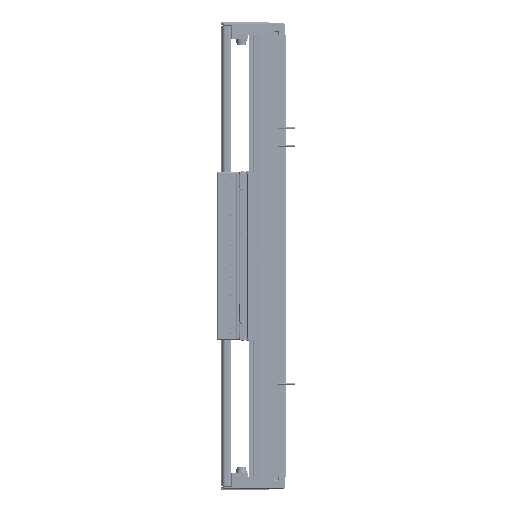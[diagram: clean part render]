
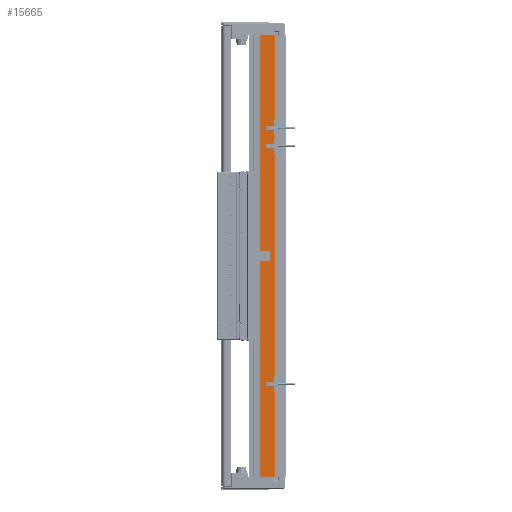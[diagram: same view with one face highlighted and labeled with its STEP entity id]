
A CAD part, left-side view. The second image highlights one B-rep face of the part: STEP entity #15665.
In plain terms, the highlighted planar face has unit normal (-1, 0, 0).
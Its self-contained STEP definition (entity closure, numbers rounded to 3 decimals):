
#129 = CARTESIAN_POINT ( 'NONE',  ( -97.5, 36.95, 330. ) ) ;
#3507 = VERTEX_POINT ( 'NONE', #59756 ) ;
#4590 = DIRECTION ( 'NONE',  ( 0., -1., 0. ) ) ;
#4723 = VECTOR ( 'NONE', #95587, 1000. ) ;
#7151 = CARTESIAN_POINT ( 'NONE',  ( -97.5, 14.45, -330. ) ) ;
#11218 = ORIENTED_EDGE ( 'NONE', *, *, #65487, .F. ) ;
#15665 = ADVANCED_FACE ( 'NONE', ( #110944 ), #17832, .F. ) ;
#17832 = PLANE ( 'NONE',  #43734 ) ;
#17849 = EDGE_CURVE ( 'NONE', #51162, #18209, #80760, .T. ) ;
#18209 = VERTEX_POINT ( 'NONE', #7151 ) ;
#28831 = CARTESIAN_POINT ( 'NONE',  ( -97.5, 36.95, 330. ) ) ;
#35970 = VECTOR ( 'NONE', #4590, 1000. ) ;
#36028 = ORIENTED_EDGE ( 'NONE', *, *, #94670, .T. ) ;
#38563 = CARTESIAN_POINT ( 'NONE',  ( -97.5, 36.95, 330. ) ) ;
#40886 = ORIENTED_EDGE ( 'NONE', *, *, #59680, .T. ) ;
#43734 = AXIS2_PLACEMENT_3D ( 'NONE', #99400, #49123, #57990 ) ;
#45684 = EDGE_LOOP ( 'NONE', ( #40886, #54501, #11218, #36028 ) ) ;
#49123 = DIRECTION ( 'NONE',  ( 1., 0., 0. ) ) ;
#49215 = VECTOR ( 'NONE', #59694, 1000. ) ;
#50825 = CARTESIAN_POINT ( 'NONE',  ( -97.5, 14.45, 330. ) ) ;
#51162 = VERTEX_POINT ( 'NONE', #86674 ) ;
#51491 = CARTESIAN_POINT ( 'NONE',  ( -97.5, 36.95, -330. ) ) ;
#53506 = LINE ( 'NONE', #51491, #4723 ) ;
#54501 = ORIENTED_EDGE ( 'NONE', *, *, #17849, .F. ) ;
#57990 = DIRECTION ( 'NONE',  ( 0., 1., 0. ) ) ;
#59680 = EDGE_CURVE ( 'NONE', #3507, #18209, #53506, .T. ) ;
#59694 = DIRECTION ( 'NONE',  ( 0., 0., -1. ) ) ;
#59756 = CARTESIAN_POINT ( 'NONE',  ( -97.5, 36.95, -330. ) ) ;
#65487 = EDGE_CURVE ( 'NONE', #100017, #51162, #98370, .T. ) ;
#69107 = VECTOR ( 'NONE', #101541, 1000. ) ;
#80760 = LINE ( 'NONE', #50825, #49215 ) ;
#86674 = CARTESIAN_POINT ( 'NONE',  ( -97.5, 14.45, 330. ) ) ;
#94670 = EDGE_CURVE ( 'NONE', #100017, #3507, #130078, .T. ) ;
#95587 = DIRECTION ( 'NONE',  ( 0., -1., 0. ) ) ;
#98370 = LINE ( 'NONE', #38563, #35970 ) ;
#99400 = CARTESIAN_POINT ( 'NONE',  ( -97.5, 36.95, 330. ) ) ;
#100017 = VERTEX_POINT ( 'NONE', #129 ) ;
#101541 = DIRECTION ( 'NONE',  ( 0., 0., -1. ) ) ;
#110944 = FACE_OUTER_BOUND ( 'NONE', #45684, .T. ) ;
#130078 = LINE ( 'NONE', #28831, #69107 ) ;
